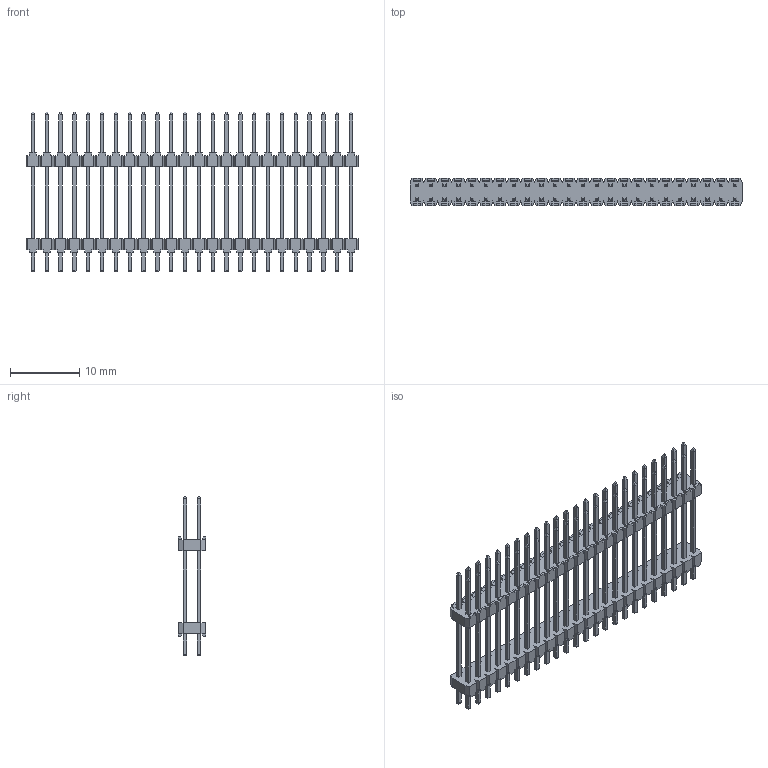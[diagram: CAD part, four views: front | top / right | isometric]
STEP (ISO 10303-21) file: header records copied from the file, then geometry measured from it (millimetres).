
FILE_DESCRIPTION(/* description */ (''),/* implementation_level */ '2;1');
FILE_NAME(/* name */ '951448-8062506-AR',/* time_stamp */ '2007-03-14T11:04:26+01:00',/* author */ (''),/* organization */ (''),/* preprocessor_version */ 'ST-DEVELOPER v9',/* originating_system */ 'UGS - NX 4.0',/* authorisation */ '');
FILE_SCHEMA (('AUTOMOTIVE_DESIGN { 1 0 10303 214 1 1 1 1 }'));
Length unit declared in the file: millimetre
Products named in the file (1): 951448-8062506-AR
Bounding box: 48 x 4 x 23.1 mm (x, y, z)
Volume: 839.7 mm3; surface area: 3159.4 mm2
Topology: 1 solids, 1 shells, 1736 faces, 4524 edges, 2888 vertices
Faces by surface type: plane 1544, cylinder 192
Entity records: 51940 total; most frequent: CARTESIAN_POINT 9149, ORIENTED_EDGE 9048, DIRECTION 8190, EDGE_CURVE 4524, LINE 4332, VECTOR 4332, VERTEX_POINT 2888, AXIS2_PLACEMENT_3D 1929
